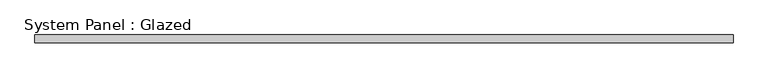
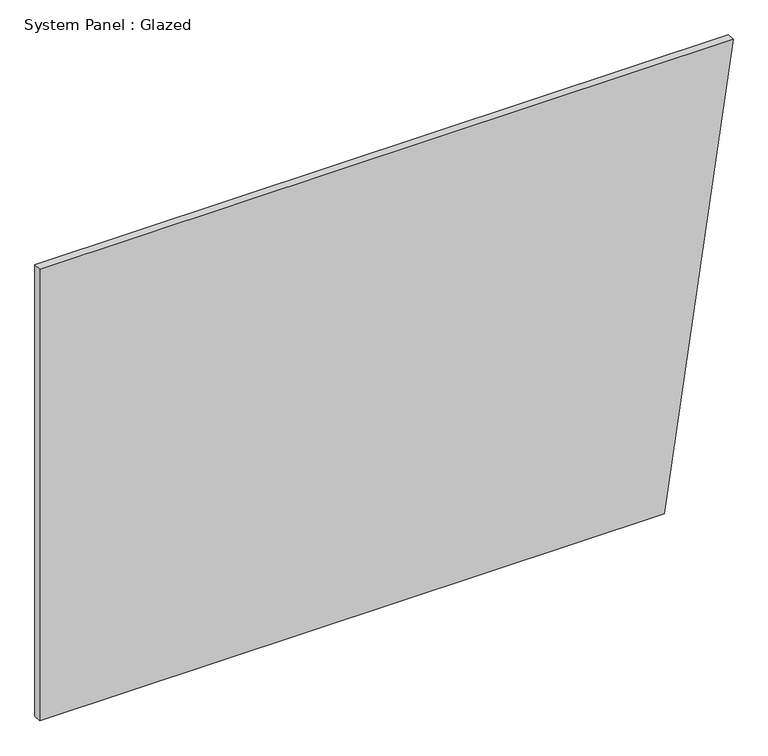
"""IFC4 building model written with IfcOpenShell, lengths in millimetres: plate geometry, System Panel : Glazed."""

from ifc_helpers import new_model, si_unit, frame, origin, place, context, project, spatial, polyline, outline, extrude, source, transform, mapped, element, save


def system_panel_glazed_b5e7a883(model_context):
    return source(origin(), model_context, "Body", "SweptSolid", [
        extrude(outline(polyline([(0.0, -1107.3669063), (0.0, 888.0863308), (1524.0, 1107.3669063), (1524.0, -1107.3669063), (0.0, -1107.3669063)])), frame((0.0, 19.05, 0.0), z_axis=(0.0, 1.0, 0.0), x_axis=(0.0, 0.0, 1.0)), (0.0, 0.0, 1.0), 25.4),
    ])


if __name__ == "__main__":
    model = new_model("IFC4")
    model_context = context("Model", 3, world=origin())
    ifc_project = project(units=[si_unit("LENGTHUNIT", "METRE", prefix="MILLI")], contexts=[model_context])
    site = spatial("IfcSite", under=ifc_project)
    building = spatial("IfcBuilding", under=site)
    placement = place(None, origin())
    system_panel_glazed_shape = system_panel_glazed_b5e7a883(model_context)
    element("IfcPlate", 1, ObjectType="System Panel : Glazed", at=placement, inside=building, context=model_context, shape_type="MappedRepresentation", body=[
        mapped(system_panel_glazed_shape, transform((0.0, 0.0, 0.0), x_axis=(1.0, 0.0, 0.0), y_axis=(0.0, 1.0, 0.0), z_axis=(0.0, 0.0, 1.0))),
    ])
    save(model, "model.ifc")
